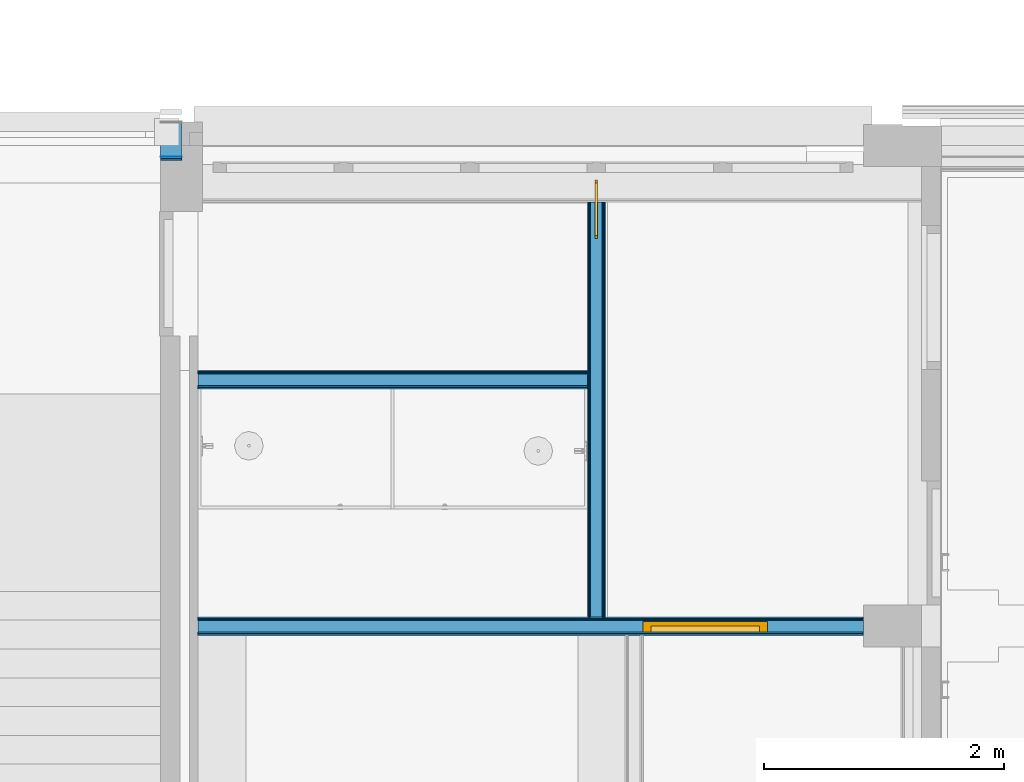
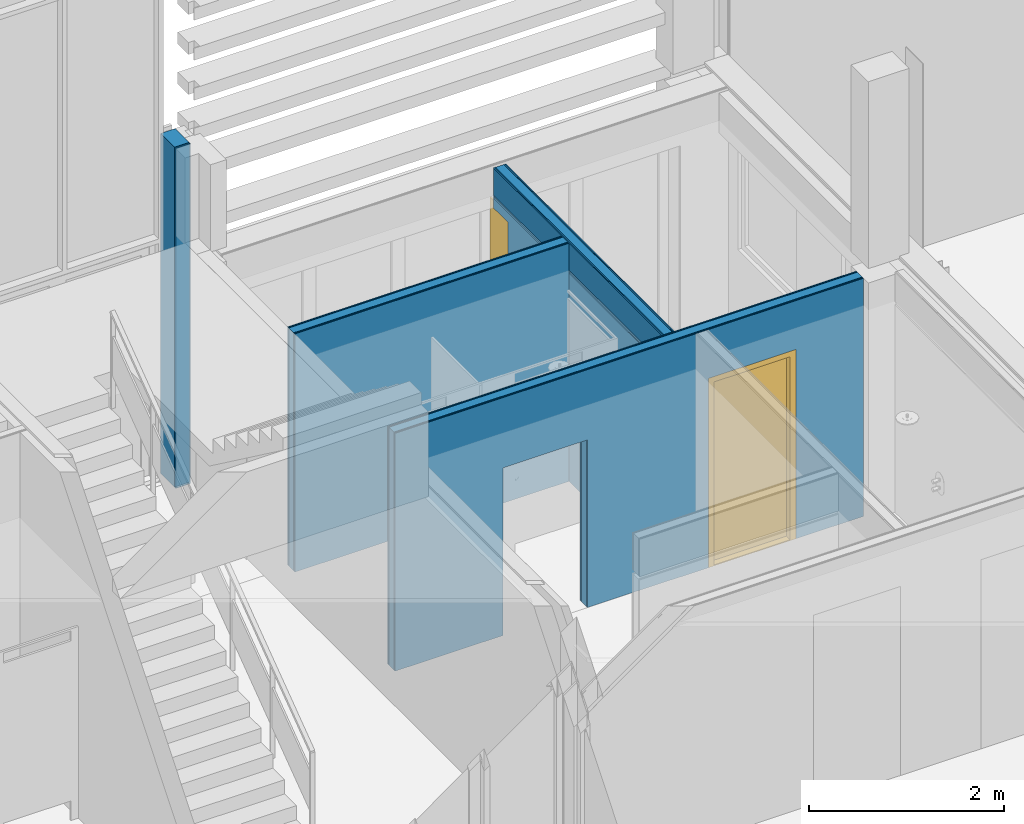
# One storey, part 81 of 109: 19 building element parts, 1 door, 1 window, 3 openings, 4 elements without a shape of their own.
"""IFC2X3 building model written with IfcOpenShell, lengths in millimetres."""

import ifcopenshell
import ifcopenshell.guid

model = None  # the IFC model being written
_history = None  # IfcOwnerHistory: only IFC2X3 demands one
_inside = {}  # id of a spatial element -> (the spatial element, [elements in it])
_under = {}  # id of a project, library or spatial element -> (it, [spatial elements below it])
_declared = {}  # id of a project -> (the project, [libraries it declares])
_typed = {}  # id of a type object -> (the type object, [elements of that type])
_made_of = {}  # id of a material, layer set ... -> (it, [elements and type objects made of it])


def new_model(schema):
    """Start an empty IFC model of exactly this schema.

    Asked for "IFC4X3", IfcOpenShell would pick the latest addendum, in which some entities
    have other attributes; the version numbers below select the first issue.
    IFC2X3 requires an IfcOwnerHistory on every rooted entity: one is made here for all.
    """
    global model, _history
    if schema == "IFC4X3":
        model = ifcopenshell.file(schema_version=(4, 3, 0, 0))
    else:
        model = ifcopenshell.file(schema=schema)
    _inside.clear()
    _under.clear()
    _declared.clear()
    _typed.clear()
    _made_of.clear()
    _history = None
    if model.schema == "IFC2X3":
        org = make("IfcOrganization", Name="unknown")
        user = make(
            "IfcPersonAndOrganization",
            ThePerson=make("IfcPerson", FamilyName="unknown"),
            TheOrganization=org,
        )
        app = make(
            "IfcApplication",
            ApplicationDeveloper=org,
            Version="unknown",
            ApplicationFullName="unknown",
            ApplicationIdentifier="unknown",
        )
        _history = make(
            "IfcOwnerHistory",
            OwningUser=user,
            OwningApplication=app,
            ChangeAction="ADDED",
            CreationDate=0,
        )
    return model


def make(cls, **values):
    """One entity of the class cls with the attributes given. An attribute that is None is left unset."""
    return model.create_entity(
        cls, **{name: value for name, value in values.items() if value is not None}
    )


def entity(cls, *values):
    """Any entity or typed value of the class cls, its attributes in the order of the schema. None: left unset."""
    e = model.create_entity(cls)
    for i, value in enumerate(values):
        if value is not None:
            e[i] = value
    return e


def rooted(cls, **values):
    """An entity with a GlobalId (a new one), such as an element, a storey or a relation."""
    return make(cls, GlobalId=ifcopenshell.guid.new(), OwnerHistory=_history, **values)


def si_unit(unit_type, name, prefix=None):
    """IfcSIUnit, for example si_unit("LENGTHUNIT", "METRE", prefix="MILLI")."""
    return make("IfcSIUnit", UnitType=unit_type, Prefix=prefix, Name=name)


def converted_unit(unit_type, name, factor, base, dimensions=None, offset=None):
    """IfcConversionBasedUnit, such as the inch: factor (a typed value) times the base unit."""
    return make(
        "IfcConversionBasedUnit"
        if offset is None
        else "IfcConversionBasedUnitWithOffset",
        ConversionOffset=offset,
        Dimensions=None
        if dimensions is None
        else entity("IfcDimensionalExponents", *dimensions),
        UnitType=unit_type,
        Name=name,
        ConversionFactor=make(
            "IfcMeasureWithUnit", ValueComponent=factor, UnitComponent=base
        ),
    )


def derived_unit(unit_type, elements):
    """IfcDerivedUnit: a product of units, each with its exponent."""
    return make(
        "IfcDerivedUnit",
        Elements=[
            make("IfcDerivedUnitElement", Unit=unit, Exponent=power)
            for unit, power in elements
        ],
        UnitType=unit_type,
    )


def money_unit(currency):
    """IfcMonetaryUnit."""
    return make("IfcMonetaryUnit", Currency=currency)


def assignment(units):
    """IfcUnitAssignment: the units of a project."""
    return None if units is None else make("IfcUnitAssignment", Units=units)


def point(xyz):
    """IfcCartesianPoint."""
    return None if xyz is None else make("IfcCartesianPoint", Coordinates=xyz)


def direction(xyz):
    """IfcDirection."""
    return None if xyz is None else make("IfcDirection", DirectionRatios=xyz)


def frame(location, z_axis=None, x_axis=None):
    """IfcAxis2Placement3D, a coordinate frame: its origin and axes. An axis left out is left unset."""
    return make(
        "IfcAxis2Placement3D",
        Location=point(location),
        Axis=direction(z_axis),
        RefDirection=direction(x_axis),
    )


def origin_with_axes():
    """The frame at (0, 0, 0) with the z axis (0, 0, 1) and the x axis (1, 0, 0) written out."""
    return frame((0.0, 0.0, 0.0), z_axis=(0.0, 0.0, 1.0), x_axis=(1.0, 0.0, 0.0))


def place(relative_to, where):
    """IfcLocalPlacement: puts the frame where relative to a parent placement (None: the world)."""
    return make(
        "IfcLocalPlacement", PlacementRelTo=relative_to, RelativePlacement=where
    )


def context(
    kind, dimensions, precision=None, world=None, true_north=None, identifier=None
):
    """IfcGeometricRepresentationContext, for example the 3D "Model" context."""
    return make(
        "IfcGeometricRepresentationContext",
        ContextIdentifier=identifier,
        ContextType=kind,
        CoordinateSpaceDimension=dimensions,
        Precision=precision,
        WorldCoordinateSystem=world,
        TrueNorth=true_north,
    )


def subcontext(parent, identifier, kind, view, scale=None):
    """IfcGeometricRepresentationSubContext, for example "Body" below "Model"."""
    return make(
        "IfcGeometricRepresentationSubContext",
        ContextIdentifier=identifier,
        ContextType=kind,
        ParentContext=parent,
        TargetScale=scale,
        TargetView=view,
    )


def project(units=None, contexts=None):
    """IfcProject with its units and contexts."""
    return rooted(
        "IfcProject",
        Name="project",
        RepresentationContexts=contexts,
        UnitsInContext=assignment(units),
    )


def spatial(cls, under=None, at=None, **own):
    """A site, building, storey or space (cls), placed at a placement, below another one or the project."""
    s = rooted(cls, ObjectPlacement=at, **own)
    if under is not None:
        _under.setdefault(under.id(), (under, []))[1].append(s)
    return s


def faces_of(points, faces, orient=None, outer=None):
    """IfcFace entities. A face is a list of loops; a loop is a list of indices into points, from 0.

    orient and outer hold one flag for each loop. By default every Orientation is true, the
    first loop of a face is its IfcFaceOuterBound and the others are IfcFaceBound.
    """
    made = []
    for i, loops in enumerate(faces):
        bounds = []
        for j, loop in enumerate(loops):
            is_outer = j == 0 if outer is None else outer[i][j]
            bounds.append(
                make(
                    "IfcFaceOuterBound" if is_outer else "IfcFaceBound",
                    Bound=make("IfcPolyLoop", Polygon=[points[k] for k in loop]),
                    Orientation=True if orient is None else orient[i][j],
                )
            )
        made.append(make("IfcFace", Bounds=bounds))
    return made


def open_shell(faces, orient=None, outer=None):
    """The faces of one IfcOpenShell. surface_model builds it on its shared points."""
    return ("IfcOpenShell", faces, orient, outer)


def faceted_brep(points, faces, orient=None, outer=None, voids=None):
    """IfcFacetedBrep: a solid bounded by flat faces; with voids (closed shells), ...WithVoids."""
    shared = [point(p) for p in points]
    hull = make("IfcClosedShell", CfsFaces=faces_of(shared, faces, orient, outer))
    if voids is None:
        return make("IfcFacetedBrep", Outer=hull)
    return make(
        "IfcFacetedBrepWithVoids",
        Outer=hull,
        Voids=[
            make(cls, CfsFaces=faces_of(shared, fs, o, b)) for cls, fs, o, b in voids
        ],
    )


def surface_model(cls, points, shells):
    """IfcFaceBasedSurfaceModel or IfcShellBasedSurfaceModel (cls): surfaces that need not close."""
    shared = [point(p) for p in points]
    made = [make(c, CfsFaces=faces_of(shared, fs, o, b)) for c, fs, o, b in shells]
    if cls == "IfcFaceBasedSurfaceModel":
        return make(cls, FbsmFaces=made)
    return make(cls, SbsmBoundary=made)


def shape(context_of_items, identifier, shape_type, items):
    """IfcShapeRepresentation: the items that make up one representation, for example the "Body"."""
    return make(
        "IfcShapeRepresentation",
        ContextOfItems=context_of_items,
        RepresentationIdentifier=identifier,
        RepresentationType=shape_type,
        Items=items,
    )


def material(Name=None, Category=None):
    """IfcMaterial."""
    return make("IfcMaterial", Name=Name, Category=Category)


def made_of(thing, what):
    """Note that an element or type object is made of a material, layer set ...; save() writes the relation."""
    if what is not None:
        _made_of.setdefault(what.id(), (what, []))[1].append(thing)
    return thing


def type_object(cls, material=None, **own):
    """A type object (cls), such as IfcWallType, which elements share."""
    return made_of(rooted(cls, **own), material)


def element(
    cls,
    number,
    at=None,
    inside=None,
    cuts=None,
    type_object=None,
    material=None,
    context=None,
    identifier="Body",
    shape_type=None,
    held_by="IfcProductDefinitionShape",
    body=None,
    shapes=None,
    **own,
):
    """One element of the class cls, such as IfcWall. Its Tag is "e" and its number.

    at: its placement. inside: the storey or other place that contains it. cuts: it is an
    opening in that element (IfcRelVoidsElement). A single representation is given by context,
    identifier, shape_type and body (its items); several are given by shapes. held_by: the class
    of the entity that holds the representations. save() writes the other relations.
    """
    e = rooted(cls, Tag="e%d" % number, ObjectPlacement=at, **own)
    if body is not None:
        shapes = [shape(context, identifier, shape_type, body)]
    if shapes is not None:
        e.Representation = make(held_by, Representations=shapes)
    if inside is not None:
        _inside.setdefault(inside.id(), (inside, []))[1].append(e)
    if cuts is not None:
        rooted(
            "IfcRelVoidsElement", RelatingBuildingElement=cuts, RelatedOpeningElement=e
        )
    if type_object is not None:
        _typed.setdefault(type_object.id(), (type_object, []))[1].append(e)
    return made_of(e, material)


def fill(opening, filler):
    """IfcRelFillsElement: the door or window that sits in an opening."""
    return rooted(
        "IfcRelFillsElement",
        RelatingOpeningElement=opening,
        RelatedBuildingElement=filler,
    )


def aggregate(whole, parts):
    """IfcRelAggregates: a whole, such as a stair, and the parts it consists of."""
    return rooted("IfcRelAggregates", RelatingObject=whole, RelatedObjects=parts)


def save(model, path):
    """Write the relations noted so far, then the file.

    IfcRelAggregates (storeys below a building ...), IfcRelContainedInSpatialStructure (elements
    in a storey), IfcRelDefinesByType, IfcRelAssociatesMaterial and IfcRelDeclares: one each for
    every whole, place, type object, material and project.
    """
    for whole, parts in _under.values():
        aggregate(whole, parts)
    for where, things in _inside.values():
        rooted(
            "IfcRelContainedInSpatialStructure",
            RelatedElements=things,
            RelatingStructure=where,
        )
    for kind, things in _typed.values():
        rooted("IfcRelDefinesByType", RelatedObjects=things, RelatingType=kind)
    for what, things in _made_of.values():
        rooted("IfcRelAssociatesMaterial", RelatedObjects=things, RelatingMaterial=what)
    for by, libraries in _declared.values():
        rooted("IfcRelDeclares", RelatingContext=by, RelatedDefinitions=libraries)
    model.write(path)


model = new_model("IFC2X3")

# Units and contexts
model_context = context("Model", 3, precision=0.01, world=origin_with_axes(), true_north=direction((0.0, 1.0)))
body_context = subcontext(model_context, "Body", "Model", "MODEL_VIEW")
ifc_project = project(units=[si_unit("LENGTHUNIT", "METRE", prefix="MILLI"), si_unit("AREAUNIT", "SQUARE_METRE"), si_unit("VOLUMEUNIT", "CUBIC_METRE"), converted_unit("PLANEANGLEUNIT", "DEGREE", entity("IfcPlaneAngleMeasure", 0.0174532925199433), si_unit("PLANEANGLEUNIT", "RADIAN"), dimensions=[0, 0, 0, 0, 0, 0, 0]), money_unit("EUR"), converted_unit("TIMEUNIT", "Year", entity("IfcTimeMeasure", 31557600.0), si_unit("TIMEUNIT", "SECOND"), dimensions=[0, 0, 1, 0, 0, 0, 0]), si_unit("MASSUNIT", "GRAM", prefix="KILO"), si_unit("THERMODYNAMICTEMPERATUREUNIT", "DEGREE_CELSIUS"), si_unit("LUMINOUSINTENSITYUNIT", "LUMEN"), si_unit("ENERGYUNIT", "JOULE", prefix="MEGA"), derived_unit("THERMALCONDUCTANCEUNIT", [(si_unit("POWERUNIT", "WATT"), 1), (si_unit("LENGTHUNIT", "METRE"), -1), (si_unit("THERMODYNAMICTEMPERATUREUNIT", "KELVIN"), -1)]), derived_unit("SPECIFICHEATCAPACITYUNIT", [(si_unit("ENERGYUNIT", "JOULE"), 1), (si_unit("MASSUNIT", "GRAM", prefix="KILO"), -1), (si_unit("THERMODYNAMICTEMPERATUREUNIT", "KELVIN"), -1)]), derived_unit("MASSDENSITYUNIT", [(si_unit("MASSUNIT", "GRAM", prefix="KILO"), 1), (si_unit("VOLUMEUNIT", "CUBIC_METRE"), -1)])], contexts=[model_context])

# Site, building, storey
site_placement = place(None, origin_with_axes())
site = spatial("IfcSite", under=ifc_project, at=site_placement, Name="<site naam>", CompositionType="ELEMENT")
building_placement = place(site_placement, origin_with_axes())
building = spatial("IfcBuilding", under=site, at=building_placement, Name="<Naam gebouw>", CompositionType="ELEMENT")
storey_placement = place(building_placement, origin_with_axes())
storey = spatial("IfcBuildingStorey", under=building, at=storey_placement, Name="00 Begane grond", CompositionType="ELEMENT", Elevation=0.0)

# Window
window_style = type_object("IfcWindowStyle", Name="R1 27", ConstructionType="NOTDEFINED", OperationType="DOUBLE_PANEL_HORIZONTAL", ParameterTakesPrecedence=False, Sizeable=False)
wall_1_placement = place(storey_placement, frame((55451.69800429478, 19840.00019144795, 0.0), z_axis=(0.0, 0.0, 1.0), x_axis=(0.0, -1.0, 0.0)))
opening_1_placement = place(wall_1_placement, frame((370.4607829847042, 0.0, 0.0), z_axis=(0.0, 0.0, 1.0), x_axis=(1.0, 0.0, 0.0)))
window_placement = place(opening_1_placement, frame((-242.0392170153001, 0.0, 0.0), z_axis=(0.0, 0.0, 1.0), x_axis=(1.0, 0.0, 0.0)))
window = element("IfcWindow", 1, at=window_placement, inside=storey, type_object=window_style, Name="22_BI-F-31_305", ObjectType="WINDOW", OverallHeight=2479.5, OverallWidth=484.078, context=body_context, shape_type="SurfaceModel", body=[
    faceted_brep([(460.0784340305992, -10.00000000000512, 788.0), (460.0784340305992, -10.00000000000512, 812.0), (460.0784340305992, 9.99999999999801, 812.0), (460.0784340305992, 9.99999999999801, 788.0), (460.0784340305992, -10.00000000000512, 23.99999999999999), (484.0784340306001, -10.00000000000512, 23.99999999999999), (484.0784340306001, -10.00000000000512, 2455.5), (460.0784340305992, -10.00000000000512, 2455.5), (460.0784340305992, 9.99999999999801, 2455.5), (484.0784340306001, 9.99999999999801, 2455.5), (484.0784340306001, 9.99999999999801, 24.0), (460.0784340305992, 9.99999999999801, 24.0)], [[[0, 1, 2, 3]], [[0, 4, 5, 6, 7, 1]], [[1, 7, 8, 2]], [[3, 2, 8, 9, 10, 11]], [[4, 0, 3, 11]], [[5, 4, 11, 10]], [[6, 5, 10, 9]], [[7, 6, 9, 8]]]),
    faceted_brep([(24.00000000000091, -10.00000000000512, 23.99999999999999), (0.0, -10.00000000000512, 23.99999999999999), (0.0, 9.99999999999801, 24.0), (24.00000000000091, 9.99999999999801, 24.0), (24.00000000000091, -10.00000000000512, 788.0), (24.00000000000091, -10.00000000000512, 812.0), (24.00000000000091, -10.00000000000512, 2455.5), (0.0, -10.00000000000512, 2455.5), (0.0, 9.99999999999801, 2455.5), (24.00000000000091, 9.99999999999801, 2455.5), (24.00000000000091, 9.99999999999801, 812.0), (24.00000000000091, 9.99999999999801, 788.0)], [[[0, 1, 2, 3]], [[0, 4, 5, 6, 7, 1]], [[1, 7, 8, 2]], [[3, 2, 8, 9, 10, 11]], [[4, 0, 3, 11]], [[5, 4, 11, 10]], [[6, 5, 10, 9]], [[7, 6, 9, 8]]]),
    faceted_brep([(460.0784340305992, -10.00000000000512, 788.0), (24.00000000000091, -10.00000000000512, 788.0), (24.00000000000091, 9.99999999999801, 788.0), (460.0784340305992, 9.99999999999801, 788.0), (460.0784340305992, -10.00000000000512, 812.0), (24.00000000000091, -10.00000000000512, 812.0), (24.00000000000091, 9.99999999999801, 812.0), (460.0784340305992, 9.99999999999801, 812.0)], [[[0, 1, 2, 3]], [[0, 4, 5, 1]], [[1, 5, 6, 2]], [[3, 2, 6, 7]], [[4, 0, 3, 7]], [[5, 4, 7, 6]]]),
    faceted_brep([(460.0784340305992, -10.00000000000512, 23.99999999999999), (484.0784340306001, -10.00000000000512, 23.99999999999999), (484.0784340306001, 9.99999999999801, 24.0), (460.0784340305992, 9.99999999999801, 24.0), (24.00000000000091, -10.00000000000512, 23.99999999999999), (0.0, -10.00000000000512, 23.99999999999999), (0.0, -10.00000000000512, 0.0), (484.0784340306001, -10.00000000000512, 0.0), (484.0784340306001, 9.99999999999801, 0.0), (0.0, 9.99999999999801, 0.0), (0.0, 9.99999999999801, 24.0), (24.00000000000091, 9.99999999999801, 24.0)], [[[0, 1, 2, 3]], [[0, 4, 5, 6, 7, 1]], [[1, 7, 8, 2]], [[3, 2, 8, 9, 10, 11]], [[4, 0, 3, 11]], [[5, 4, 11, 10]], [[6, 5, 10, 9]], [[7, 6, 9, 8]]]),
    faceted_brep([(24.00000000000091, -10.00000000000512, 2455.5), (0.0, -10.00000000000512, 2455.5), (0.0, 9.99999999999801, 2455.5), (24.00000000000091, 9.99999999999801, 2455.5), (460.0784340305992, -10.00000000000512, 2455.5), (484.0784340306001, -10.00000000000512, 2455.5), (484.0784340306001, -10.00000000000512, 2479.5), (0.0, -10.00000000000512, 2479.5), (0.0, 9.99999999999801, 2479.5), (484.0784340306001, 9.99999999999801, 2479.5), (484.0784340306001, 9.99999999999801, 2455.5), (460.0784340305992, 9.99999999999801, 2455.5)], [[[0, 1, 2, 3]], [[0, 4, 5, 6, 7, 1]], [[1, 7, 8, 2]], [[3, 2, 8, 9, 10, 11]], [[4, 0, 3, 11]], [[5, 4, 11, 10]], [[6, 5, 10, 9]], [[7, 6, 9, 8]]]),
    surface_model("IfcShellBasedSurfaceModel", [(460.0784340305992, -10.00000000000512, 812.0), (460.0784340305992, -10.00000000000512, 2455.5), (24.00000000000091, -10.00000000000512, 2455.5), (24.00000000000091, -10.00000000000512, 812.0)], [open_shell([[[0, 1, 2, 3]]])]),
    surface_model("IfcShellBasedSurfaceModel", [(460.0784340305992, 9.99999999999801, 812.0), (24.00000000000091, 9.99999999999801, 812.0), (24.00000000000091, 9.99999999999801, 2455.5), (460.0784340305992, 9.99999999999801, 2455.5)], [open_shell([[[0, 1, 2, 3]]])]),
    surface_model("IfcShellBasedSurfaceModel", [(460.0784340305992, -10.00000000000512, 23.99999999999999), (460.0784340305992, -10.00000000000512, 788.0), (24.00000000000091, -10.00000000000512, 788.0), (24.00000000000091, -10.00000000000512, 23.99999999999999)], [open_shell([[[0, 1, 2, 3]]])]),
    surface_model("IfcShellBasedSurfaceModel", [(460.0784340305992, 9.99999999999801, 23.99999999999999), (24.00000000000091, 9.99999999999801, 23.99999999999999), (24.00000000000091, 9.99999999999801, 788.0), (460.0784340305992, 9.99999999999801, 788.0)], [open_shell([[[0, 1, 2, 3]]])]),
])

# Door
door_style = type_object("IfcDoorStyle", Name="D1 27", ConstructionType="NOTDEFINED", OperationType="SINGLE_SWING_LEFT", ParameterTakesPrecedence=False, Sizeable=False)
wall_2_placement = place(storey_placement, frame((52135.00000000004, 16000.00000000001, 0.0), z_axis=(0.0, 0.0, 1.0), x_axis=(1.0, 0.0, 0.0)))
opening_2_placement = place(wall_2_placement, frame((4223.000003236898, 0.0, 0.0), z_axis=(0.0, 0.0, 1.0), x_axis=(1.0, 0.0, 0.0)))
door_placement = place(opening_2_placement, frame((-450.0000000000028, 0.0, 0.0), z_axis=(0.0, 0.0, 1.0), x_axis=(1.0, 0.0, 0.0)))
door = element("IfcDoor", 2, at=door_placement, inside=storey, type_object=door_style, Name="22_BI-A-01_305", ObjectType="DOOR", OverallHeight=2367.0, OverallWidth=1034.0, context=body_context, shape_type="Brep", body=[
    faceted_brep([(0.0, -74.99999999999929, 0.0), (0.0, -74.99999999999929, 11.99999999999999), (0.0, -0.9999999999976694, 11.99999999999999), (0.0, -0.9999999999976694, 0.0), (900.0000000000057, -74.99999999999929, 0.0), (900.0000000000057, -74.99999999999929, 11.99999999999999), (900.0000000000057, -0.9999999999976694, 11.99999999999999), (917.0000000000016, -0.9999999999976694, 11.99999999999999), (-16.99999999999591, -0.9999999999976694, 11.99999999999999), (-16.99999999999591, -0.9999999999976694, 0.0), (917.0000000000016, -0.9999999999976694, 0.0), (900.0000000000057, -0.9999999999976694, 0.0)], [[[0, 1, 2, 3]], [[4, 5, 1, 0]], [[1, 5, 6, 7, 8, 2]], [[3, 2, 8, 9]], [[0, 3, 9, 10, 11, 4]], [[11, 6, 5, 4]], [[10, 7, 6, 11]], [[9, 8, 7, 10]]]),
    faceted_brep([(900.0000000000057, -0.9999999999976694, 0.0), (900.0000000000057, -74.99999999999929, 0.0), (900.0000000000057, -74.99999999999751, 2300.0), (900.0000000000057, -0.9999999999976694, 2300.0), (917.0000000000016, -0.9999999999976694, 0.0), (917.0000000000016, 39.00000000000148, 0.0), (967.0000000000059, 39.00000000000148, 0.0), (967.0000000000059, -74.99999999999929, 0.0), (967.0000000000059, -74.99999999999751, 2300.0), (917.0000000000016, -0.9999999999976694, 2300.0), (967.0000000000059, 39.00000000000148, 2300.0), (917.0000000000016, 39.00000000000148, 2300.0)], [[[0, 1, 2, 3]], [[4, 5, 6, 7, 1, 0]], [[1, 7, 8, 2]], [[9, 3, 2, 8, 10, 11]], [[9, 4, 0, 3]], [[11, 5, 4, 9]], [[11, 10, 6, 5]], [[6, 10, 8, 7]]]),
    faceted_brep([(-16.99999999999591, -0.9999999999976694, 2300.0), (-16.99999999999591, 39.00000000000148, 2300.0), (-67.00000000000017, 39.00000000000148, 2300.0), (-67.00000000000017, -74.99999999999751, 2300.0), (0.0, -74.99999999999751, 2300.0), (0.0, -0.9999999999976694, 2300.0), (-16.99999999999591, -0.9999999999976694, 0.0), (-16.99999999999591, 39.00000000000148, 0.0), (-67.00000000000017, 39.00000000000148, 0.0), (-67.00000000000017, -74.99999999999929, 0.0), (0.0, -74.99999999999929, 0.0), (0.0, -0.9999999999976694, 0.0)], [[[0, 1, 2, 3, 4, 5]], [[0, 6, 7, 1]], [[7, 8, 2, 1]], [[2, 8, 9, 3]], [[3, 9, 10, 4]], [[5, 4, 10, 11]], [[5, 11, 6, 0]], [[6, 11, 10, 9, 8, 7]]]),
    faceted_brep([(917.0000000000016, 39.00000000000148, 2317.0), (-16.99999999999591, 39.00000000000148, 2317.0), (-16.99999999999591, 39.00000000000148, 2300.0), (-67.00000000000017, 39.00000000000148, 2300.0), (-67.00000000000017, 39.00000000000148, 2367.0), (967.0000000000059, 39.00000000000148, 2367.0), (967.0000000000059, 39.00000000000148, 2300.0), (917.0000000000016, 39.00000000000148, 2300.0), (917.0000000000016, -0.9999999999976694, 2317.0), (-16.99999999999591, -0.9999999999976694, 2317.0), (-16.99999999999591, -0.9999999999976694, 2300.0), (0.0, -0.9999999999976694, 2300.0), (0.0, -74.99999999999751, 2300.0), (-67.00000000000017, -74.99999999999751, 2300.0), (-67.00000000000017, -74.99999999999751, 2367.0), (967.0000000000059, -74.99999999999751, 2367.0), (967.0000000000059, -74.99999999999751, 2300.0), (917.0000000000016, -0.9999999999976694, 2300.0), (900.0000000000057, -74.99999999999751, 2300.0), (900.0000000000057, -0.9999999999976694, 2300.0)], [[[0, 1, 2, 3, 4, 5, 6, 7]], [[0, 8, 9, 1]], [[1, 9, 10, 2]], [[10, 11, 12, 13, 3, 2]], [[4, 3, 13, 14]], [[5, 4, 14, 15]], [[6, 5, 15, 16]], [[17, 7, 6, 16, 18, 19]], [[7, 17, 8, 0]], [[10, 9, 8, 17, 19, 11]], [[19, 18, 12, 11]], [[12, 18, 16, 15, 14, 13]]]),
    faceted_brep([(-16.99999999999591, 39.00000000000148, 0.0), (917.0000000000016, 39.00000000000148, 0.0), (917.0000000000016, -0.9999999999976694, 0.0), (-16.99999999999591, -0.9999999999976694, 0.0), (-16.99999999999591, 39.00000000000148, 2317.0), (917.0000000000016, 39.00000000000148, 2317.0), (917.0000000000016, -0.9999999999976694, 2317.0), (-16.99999999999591, -0.9999999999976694, 2317.0)], [[[0, 1, 2, 3]], [[0, 4, 5, 1]], [[1, 5, 6, 2]], [[3, 2, 6, 7]], [[4, 0, 3, 7]], [[5, 4, 7, 6]]]),
])

# Wall, opening
wall_type_1 = type_object("IfcWallType", Name="MS-01 GF 150 ECO DGS/2.100.2.A 150", PredefinedType="NOTDEFINED")
wall_1 = element("IfcWall", 3, at=wall_1_placement, inside=storey, type_object=wall_type_1, Name="22_Binnenwand_MS-01")
opening_1 = element("IfcOpeningElement", 4, at=opening_1_placement, cuts=wall_1, Name="22_BI-F-31_305", context=body_context, shape_type="Brep", body=[
    faceted_brep([(-242.0392170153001, 9.99999999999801, 0.0), (-242.0392170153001, 9.99999999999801, 2479.5), (-242.0392170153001, 76.00000000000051, 2479.5), (-242.0392170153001, 76.00000000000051, 0.0), (-242.0392170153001, -76.00000000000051, 0.0), (-242.0392170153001, -76.00000000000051, 2479.5), (242.0392170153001, 9.99999999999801, 2479.5), (242.0392170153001, 76.00000000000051, 2479.5), (242.0392170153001, -76.00000000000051, 2479.5), (242.0392170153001, 76.00000000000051, 0.0), (242.0392170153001, 9.99999999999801, 0.0), (242.0392170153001, -76.00000000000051, 0.0)], [[[0, 1, 2, 3]], [[1, 0, 4, 5]], [[6, 7, 2, 1, 5, 8]], [[7, 9, 3, 2]], [[0, 3, 9, 10, 11, 4]], [[5, 4, 11, 8]], [[6, 10, 9, 7]], [[10, 6, 8, 11]]]),
])

fill(opening_1, window)

# Building element part
ifc_material_1 = material(Name="gipsplaat")
building_element_part_1_placement = place(wall_1_placement, origin_with_axes())
building_element_part_1 = element("IfcBuildingElementPart", 5, at=building_element_part_1_placement, material=ifc_material_1, Name="gipsplaat", context=body_context, shape_type="Brep", body=[
    faceted_brep([(312.5, 62.5, 2978.0), (312.5, 75.00000000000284, 2978.0), (312.5, 75.00000000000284, 0.0), (312.5, 62.5, 0.0), (3765.000191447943, 75.00000000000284, 2978.0), (3765.000191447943, 62.5, 2978.0), (3765.000191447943, 75.00000000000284, 0.0), (3765.000191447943, 62.5, 0.0)], [[[0, 1, 2, 3]], [[4, 1, 0, 5]], [[1, 4, 6, 2]], [[2, 6, 7, 3]], [[5, 0, 3, 7]], [[4, 5, 7, 6]]]),
])

building_element_part_2_placement = place(wall_1_placement, origin_with_axes())
building_element_part_2 = element("IfcBuildingElementPart", 6, at=building_element_part_2_placement, material=ifc_material_1, Name="gipsplaat", context=body_context, shape_type="Brep", body=[
    faceted_brep([(312.5, 49.99999911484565, 2978.0), (312.5, 62.5, 2978.0), (312.5, 62.5, 0.0), (312.5, 49.99999999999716, 0.0), (3765.000191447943, 62.5, 2978.0), (3765.000191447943, 49.99999911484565, 2978.0), (3765.000191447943, 62.5, 0.0), (3765.000191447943, 49.99999999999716, 0.0)], [[[0, 1, 2, 3]], [[4, 1, 0, 5]], [[1, 4, 6, 2]], [[2, 6, 7, 3]], [[5, 0, 3, 7]], [[4, 5, 7, 6]]]),
])

ifc_material_2 = material(Name="isolatie_steenwol LSW")
building_element_part_3_placement = place(wall_1_placement, origin_with_axes())
building_element_part_3 = element("IfcBuildingElementPart", 7, at=building_element_part_3_placement, material=ifc_material_2, Name="isolatie_steenwol LSW", context=body_context, shape_type="Brep", body=[
    faceted_brep([(312.5, -49.99999911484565, 2978.0), (312.5, 49.99999911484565, 2978.0), (312.5, 49.99999999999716, 0.0), (312.5, -49.99999999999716, 0.0), (3765.000191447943, 49.99999911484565, 2978.0), (3765.000191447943, -49.99999911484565, 2978.0), (3765.000191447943, 49.99999999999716, 0.0), (3765.000191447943, -49.99999999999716, 0.0)], [[[0, 1, 2, 3]], [[4, 1, 0, 5]], [[1, 4, 6, 2]], [[2, 6, 7, 3]], [[5, 0, 3, 7]], [[4, 5, 7, 6]]]),
])

building_element_part_4_placement = place(wall_1_placement, origin_with_axes())
building_element_part_4 = element("IfcBuildingElementPart", 8, at=building_element_part_4_placement, material=ifc_material_1, Name="gipsplaat", context=body_context, shape_type="Brep", body=[
    faceted_brep([(312.5, -75.00000000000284, 2978.0), (312.5, -62.5, 2978.0), (312.5, -62.5, 2.999999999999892), (312.5, -75.00000000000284, 3.000000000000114), (3765.000191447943, -62.5, 2978.0), (3765.000191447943, -75.00000000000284, 2978.0), (3765.000191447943, -62.5, 2640.0), (1865.000188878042, -62.5, 2640.0), (1865.000188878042, -62.5, 2600.0), (3765.000191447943, -62.5, 2600.0), (3765.000191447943, -62.5, 3.000000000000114), (1865.00019144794, -62.5, 2.999999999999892), (1865.00019144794, -62.5, 0.0), (370.0001803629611, -62.5, 0.0), (370.0001803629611, -62.5, 2.999999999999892), (318.0001914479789, -62.5, 2640.0), (318.0001914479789, -62.5, 2600.0), (1715.000191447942, -62.5, 2600.0), (1715.000191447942, -62.5, 2640.0), (370.0001803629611, -75.00000000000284, 2.999999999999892), (370.0001803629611, -75.00000000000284, 0.0), (1865.00019144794, -75.00000000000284, 0.0), (1865.00019144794, -75.00000000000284, 2.999999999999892), (3765.000191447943, -75.00000000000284, 2.999999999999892), (3765.000191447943, -75.00000000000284, 2600.0), (1865.000188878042, -75.00000000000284, 2600.0), (1865.000188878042, -75.00000000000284, 2640.0), (3765.000191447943, -75.00000000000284, 2640.0), (318.0001914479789, -75.00000000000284, 2640.0), (1715.000191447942, -75.00000000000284, 2640.0), (1715.000191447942, -75.00000000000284, 2600.0), (318.0001914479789, -75.00000000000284, 2600.0)], [[[0, 1, 2, 3]], [[4, 1, 0, 5]], [[1, 4, 6, 7, 8, 9, 10, 11, 12, 13, 14, 2], [15, 16, 17, 18]], [[14, 19, 3, 2]], [[5, 0, 3, 19, 20, 21, 22, 23, 24, 25, 26, 27], [28, 29, 30, 31]], [[4, 5, 27, 6]], [[27, 26, 7, 6]], [[26, 25, 8, 7]], [[25, 24, 9, 8]], [[23, 10, 9, 24]], [[23, 22, 11, 10]], [[22, 21, 12, 11]], [[12, 21, 20, 13]], [[20, 19, 14, 13]], [[28, 31, 16, 15]], [[31, 30, 17, 16]], [[30, 29, 18, 17]], [[29, 28, 15, 18]]]),
])

building_element_part_5_placement = place(wall_1_placement, origin_with_axes())
building_element_part_5 = element("IfcBuildingElementPart", 9, at=building_element_part_5_placement, material=ifc_material_1, Name="gipsplaat", context=body_context, shape_type="Brep", body=[
    faceted_brep([(312.5, -62.5, 2978.0), (312.5, -49.99999911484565, 2978.0), (312.5, -49.99999999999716, 0.0), (312.5, -58.3980042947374, 0.0), (312.5, -58.3980042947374, 2.999999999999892), (312.5, -62.5, 3.000000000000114), (3765.000191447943, -49.99999911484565, 2978.0), (3765.000191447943, -62.5, 2978.0), (3765.000191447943, -49.99999999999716, 0.0), (1865.00019144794, -62.5, 0.0), (370.0001803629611, -62.5, 0.0), (370.0001803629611, -58.3980042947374, 0.0), (3765.000191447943, -58.3980042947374, 0.0), (1865.00019144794, -58.3980042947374, 0.0), (370.0001803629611, -58.3980042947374, 2.999999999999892), (370.0001803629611, -62.5, 2.999999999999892), (1865.00019144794, -62.5, 2.999999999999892), (3765.000191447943, -62.5, 2.999999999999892), (3765.000191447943, -58.3980042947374, 2.999999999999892), (1865.00019144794, -58.3980042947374, 2.999999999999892)], [[[0, 1, 2, 3, 4, 5]], [[6, 1, 0, 7]], [[1, 6, 8, 2]], [[9, 10, 11, 3, 2, 8, 12, 13]], [[11, 14, 4, 3]], [[14, 15, 5, 4]], [[7, 0, 5, 15, 10, 9, 16, 17]], [[6, 7, 17, 18, 12, 8]], [[15, 14, 11, 10]], [[18, 19, 13, 12]], [[19, 16, 9, 13]], [[16, 19, 18, 17]]]),
])

aggregate(wall_1, [building_element_part_1, building_element_part_2, building_element_part_3, building_element_part_4, building_element_part_5])

# Wall, opening
wall_2 = element("IfcWall", 10, at=wall_2_placement, inside=storey, type_object=wall_type_1, Name="22_Binnenwand_MS-01")
opening_2 = element("IfcOpeningElement", 11, at=opening_2_placement, cuts=wall_2, Name="22_BI-A-01_305", context=body_context, shape_type="Brep", body=[
    faceted_brep([(517.000000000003, 76.00000000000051, 2367.0), (517.000000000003, 76.00000000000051, 0.0), (-517.000000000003, 76.00000000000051, 0.0), (-517.000000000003, 76.00000000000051, 2367.0), (517.000000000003, -75.99999999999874, 2367.0), (517.000000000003, -75.99999999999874, 0.0), (-517.000000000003, -75.99999999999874, 0.0), (-517.000000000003, -75.99999999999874, 2367.0)], [[[0, 1, 2, 3]], [[4, 5, 1, 0]], [[5, 6, 2, 1]], [[6, 7, 3, 2]], [[7, 4, 0, 3]], [[6, 5, 4, 7]]]),
])

fill(opening_2, door)

# Opening
opening_3_placement = place(wall_2_placement, frame((1776.987414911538, 0.0, 0.0), z_axis=(0.0, 0.0, 1.0), x_axis=(1.0, 0.0, 0.0)))
element("IfcOpeningElement", 12, at=opening_3_placement, cuts=wall_2, Name="22__305", context=body_context, shape_type="Brep", body=[
    faceted_brep([(500.0, 76.00000000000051, 2100.0), (500.0, 76.00000000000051, 0.0), (-500.0, 76.00000000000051, 0.0), (-500.0, 76.00000000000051, 2100.0), (500.0, -75.99999999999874, 2100.0), (500.0, -75.99999999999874, 0.0), (-500.0, -75.99999999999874, 0.0), (-500.0, -75.99999999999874, 2100.0)], [[[0, 1, 2, 3]], [[4, 5, 1, 0]], [[5, 6, 2, 1]], [[6, 7, 3, 2]], [[7, 4, 0, 3]], [[6, 5, 4, 7]]]),
])

# Building element part
building_element_part_6_placement = place(wall_2_placement, origin_with_axes())
building_element_part_6 = element("IfcBuildingElementPart", 13, at=building_element_part_6_placement, material=ifc_material_1, Name="gipsplaat", context=body_context, shape_type="Brep", body=[
    faceted_brep([(0.0, 74.99999999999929, 3.000000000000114), (0.0, 74.99999999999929, 2978.0), (5539.999999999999, 74.99999999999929, 2978.0), (5539.999999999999, 74.99999999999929, 0.0), (3258.299999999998, 74.99999999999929, 0.0), (3258.299999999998, 74.99999999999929, 3.000000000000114), (0.0, 62.5, 3.000000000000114), (0.0, 62.5, 2978.0), (5539.999999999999, 62.5, 2978.0), (5539.999999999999, 62.5, 0.0), (3258.299999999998, 62.5, 0.0), (3258.299999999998, 62.5, 3.000000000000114)], [[[0, 1, 2, 3, 4, 5]], [[6, 7, 1, 0]], [[7, 8, 2, 1]], [[3, 2, 8, 9]], [[3, 9, 10, 4]], [[10, 11, 5, 4]], [[6, 0, 5, 11]], [[9, 8, 7, 6, 11, 10]]]),
])

building_element_part_7_placement = place(wall_2_placement, origin_with_axes())
building_element_part_7 = element("IfcBuildingElementPart", 14, at=building_element_part_7_placement, material=ifc_material_1, Name="gipsplaat", context=body_context, shape_type="Brep", body=[
    faceted_brep([(0.0, 62.5, 3.000000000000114), (0.0, 62.5, 2978.0), (5539.999999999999, 62.5, 2978.0), (5539.999999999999, 62.5, 0.0), (3258.299999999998, 62.5, 0.0), (3258.299999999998, 62.5, 3.000000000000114), (0.0, 50.00000000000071, 3.000000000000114), (0.0, 50.00000000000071, 2978.0), (5539.999999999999, 50.00000000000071, 2978.0), (5539.999999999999, 50.00000000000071, 0.0), (3258.299999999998, 50.00000000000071, 0.0), (3258.299999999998, 50.00000000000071, 3.000000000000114)], [[[0, 1, 2, 3, 4, 5]], [[6, 7, 1, 0]], [[7, 8, 2, 1]], [[3, 2, 8, 9]], [[3, 9, 10, 4]], [[10, 11, 5, 4]], [[6, 0, 5, 11]], [[9, 8, 7, 6, 11, 10]]]),
])

building_element_part_8_placement = place(wall_2_placement, origin_with_axes())
building_element_part_8 = element("IfcBuildingElementPart", 15, at=building_element_part_8_placement, material=ifc_material_2, Name="isolatie_steenwol LSW", context=body_context, shape_type="Brep", body=[
    faceted_brep([(0.0, 50.00000000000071, 3.000000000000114), (0.0, 50.00000000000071, 2978.0), (5539.999999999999, 50.00000000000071, 2978.0), (5539.999999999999, 50.00000000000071, 0.0), (3258.299999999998, 50.00000000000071, 0.0), (3258.299999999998, 50.00000000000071, 3.000000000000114), (0.0, -50.00000000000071, 3.000000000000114), (0.0, -49.99999999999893, 2978.0), (5539.999999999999, -49.99999999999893, 2978.0), (5539.999999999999, -49.99999999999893, 0.0), (3258.299999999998, -50.00000000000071, 0.0), (3258.299999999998, -49.99999999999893, 3.000000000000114)], [[[0, 1, 2, 3, 4, 5]], [[6, 7, 1, 0]], [[7, 8, 2, 1]], [[3, 2, 8, 9]], [[3, 9, 10, 4]], [[10, 11, 5, 4]], [[6, 0, 5, 11]], [[9, 8, 7, 6, 11, 10]]]),
])

building_element_part_9_placement = place(wall_2_placement, origin_with_axes())
building_element_part_9 = element("IfcBuildingElementPart", 16, at=building_element_part_9_placement, material=ifc_material_1, Name="gipsplaat", context=body_context, shape_type="Brep", body=[
    faceted_brep([(0.0, -50.00000000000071, 3.000000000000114), (0.0, -49.99999999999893, 2978.0), (5539.999999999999, -49.99999999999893, 2978.0), (5539.999999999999, -49.99999999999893, 0.0), (3258.299999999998, -50.00000000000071, 0.0), (3258.299999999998, -49.99999999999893, 3.000000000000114), (0.0, -62.5, 3.000000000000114), (0.0, -62.5, 2978.0), (5539.999999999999, -62.5, 2978.0), (5539.999999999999, -62.5, 0.0), (3258.299999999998, -62.5, 0.0), (3258.299999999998, -62.5, 3.000000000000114)], [[[0, 1, 2, 3, 4, 5]], [[6, 7, 1, 0]], [[7, 8, 2, 1]], [[3, 2, 8, 9]], [[3, 9, 10, 4]], [[10, 11, 5, 4]], [[6, 0, 5, 11]], [[9, 8, 7, 6, 11, 10]]]),
])

building_element_part_10_placement = place(wall_2_placement, origin_with_axes())
building_element_part_10 = element("IfcBuildingElementPart", 17, at=building_element_part_10_placement, material=ifc_material_1, Name="gipsplaat", context=body_context, shape_type="Brep", body=[
    faceted_brep([(0.0, -62.5, 3.000000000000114), (0.0, -62.5, 2978.0), (5539.999999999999, -62.5, 2978.0), (5539.999999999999, -62.5, 0.0), (3258.299999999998, -62.5, 0.0), (3258.299999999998, -62.5, 3.000000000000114), (0.0, -74.99999999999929, 3.000000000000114), (0.0, -74.99999999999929, 2978.0), (5539.999999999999, -74.99999999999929, 2978.0), (5539.999999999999, -74.99999999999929, 0.0), (3258.299999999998, -74.99999999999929, 0.0), (3258.299999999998, -74.99999999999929, 3.000000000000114)], [[[0, 1, 2, 3, 4, 5]], [[6, 7, 1, 0]], [[7, 8, 2, 1]], [[3, 2, 8, 9]], [[3, 9, 10, 4]], [[10, 11, 5, 4]], [[6, 0, 5, 11]], [[9, 8, 7, 6, 11, 10]]]),
])

aggregate(wall_2, [building_element_part_6, building_element_part_7, building_element_part_8, building_element_part_9, building_element_part_10])

# Wall, building element parts
wall_3_placement = place(storey_placement, frame((52135.00000000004, 17975.00000000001, 0.0), z_axis=(0.0, 0.0, 1.0), x_axis=(1.0, 0.0, 0.0)))
wall_3 = element("IfcWall", 18, at=wall_3_placement, inside=storey, type_object=wall_type_1, Name="22_Binnenwand_MS-01")
building_element_part_11_placement = place(wall_3_placement, origin_with_axes())
building_element_part_11 = element("IfcBuildingElementPart", 19, at=building_element_part_11_placement, material=ifc_material_1, Name="gipsplaat", context=body_context, shape_type="Brep", body=[
    faceted_brep([(-3.697082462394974e-05, 149.9999999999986, 2978.0), (3241.698004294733, 150.0000000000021, 2978.0), (3241.698004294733, 149.9999999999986, 0.0), (0.0, 149.9999999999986, 0.0), (3241.698004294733, 137.4999999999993, 2978.0), (-3.697082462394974e-05, 137.4999999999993, 2978.0), (3241.698004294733, 137.4999999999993, 0.0), (0.0, 137.4999999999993, 0.0)], [[[0, 1, 2, 3]], [[4, 1, 0, 5]], [[1, 4, 6, 2]], [[3, 2, 6, 7]], [[5, 0, 3, 7]], [[4, 5, 7, 6]]]),
])
building_element_part_12_placement = place(wall_3_placement, origin_with_axes())
building_element_part_12 = element("IfcBuildingElementPart", 20, at=building_element_part_12_placement, material=ifc_material_1, Name="gipsplaat", context=body_context, shape_type="Brep", body=[
    faceted_brep([(-3.697082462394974e-05, 137.4999999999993, 2978.0), (3241.698004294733, 137.4999999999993, 2978.0), (3241.698004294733, 137.4999999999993, 0.0), (0.0, 137.4999999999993, 0.0), (3241.698004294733, 125.0, 2978.0), (-3.697082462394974e-05, 125.0, 2978.0), (3241.698004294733, 125.0, 0.0), (0.0, 125.0, 0.0)], [[[0, 1, 2, 3]], [[4, 1, 0, 5]], [[1, 4, 6, 2]], [[3, 2, 6, 7]], [[5, 0, 3, 7]], [[4, 5, 7, 6]]]),
])
building_element_part_13_placement = place(wall_3_placement, origin_with_axes())
building_element_part_13 = element("IfcBuildingElementPart", 21, at=building_element_part_13_placement, material=ifc_material_2, Name="isolatie_steenwol LSW", context=body_context, shape_type="Brep", body=[
    faceted_brep([(-3.697082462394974e-05, 125.0, 2978.0), (3241.698004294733, 125.0, 2978.0), (3241.698004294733, 125.0, 0.0), (0.0, 125.0, 0.0), (3241.698004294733, 25.00000000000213, 2978.0), (-3.697082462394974e-05, 24.99999999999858, 2978.0), (3241.698004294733, 24.99999999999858, 0.0), (0.0, 24.99999999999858, 0.0)], [[[0, 1, 2, 3]], [[4, 1, 0, 5]], [[1, 4, 6, 2]], [[3, 2, 6, 7]], [[5, 0, 3, 7]], [[4, 5, 7, 6]]]),
])
building_element_part_14_placement = place(wall_3_placement, origin_with_axes())
building_element_part_14 = element("IfcBuildingElementPart", 22, at=building_element_part_14_placement, material=ifc_material_1, Name="gipsplaat", context=body_context, shape_type="Brep", body=[
    faceted_brep([(-3.697082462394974e-05, 24.99999999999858, 2978.0), (3241.698004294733, 25.00000000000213, 2978.0), (3241.698004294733, 24.99999999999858, 0.0), (0.0, 24.99999999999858, 0.0), (3241.698004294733, 12.49999999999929, 2978.0), (-3.697082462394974e-05, 12.49999999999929, 2978.0), (3241.698004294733, 12.49999999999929, 0.0), (0.0, 12.49999999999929, 0.0)], [[[0, 1, 2, 3]], [[4, 1, 0, 5]], [[1, 4, 6, 2]], [[3, 2, 6, 7]], [[5, 0, 3, 7]], [[4, 5, 7, 6]]]),
])
building_element_part_15_placement = place(wall_3_placement, origin_with_axes())
building_element_part_15 = element("IfcBuildingElementPart", 23, at=building_element_part_15_placement, material=ifc_material_1, Name="gipsplaat", context=body_context, shape_type="Brep", body=[
    faceted_brep([(-3.697082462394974e-05, 12.49999999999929, 2978.0), (3241.698004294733, 12.49999999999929, 2978.0), (3241.698004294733, 12.49999999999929, 0.0), (0.0, 12.49999999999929, 0.0), (3241.698004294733, 0.0, 2978.0), (-3.697082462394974e-05, 0.0, 2978.0), (3241.698004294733, 0.0, 0.0), (0.0, 0.0, 0.0)], [[[0, 1, 2, 3]], [[4, 1, 0, 5]], [[1, 4, 6, 2]], [[3, 2, 6, 7]], [[5, 0, 3, 7]], [[4, 5, 7, 6]]]),
])
aggregate(wall_3, [building_element_part_11, building_element_part_12, building_element_part_13, building_element_part_14, building_element_part_15])

wall_type_2 = type_object("IfcWallType", Name="HSB_285 gevelbeplating 420", PredefinedType="NOTDEFINED")
wall_4_placement = place(storey_placement, frame((51825.00000000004, 20297.99999999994, 0.0), z_axis=(0.0, 0.0, 1.0), x_axis=(1.0, 0.0, 0.0)))
wall_4 = element("IfcWall", 24, at=wall_4_placement, inside=storey, type_object=wall_type_2, Name="21_Binnenwand_HSB_285")
ifc_material_3 = material(Name="hout_OSB")
building_element_part_16_placement = place(wall_4_placement, origin_with_axes())
building_element_part_16 = element("IfcBuildingElementPart", 25, at=building_element_part_16_placement, material=ifc_material_3, Name="hout_OSB", context=body_context, shape_type="Brep", body=[
    faceted_brep([(174.9999999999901, -407.4999999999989, 4250.0), (174.9999999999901, -392.4999999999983, 4250.0), (0.0, -392.4999999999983, 4250.0), (0.0, -407.4999999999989, 4250.0), (174.9999999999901, -407.4999999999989, 0.0), (174.9999999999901, -392.4999999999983, 0.0), (0.0, -392.4999999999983, 0.0), (0.0, -407.4999999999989, 0.0)], [[[0, 1, 2, 3]], [[0, 4, 5, 1]], [[1, 5, 6, 2]], [[3, 2, 6, 7]], [[4, 0, 3, 7]], [[5, 4, 7, 6]]]),
])
ifc_material_4 = material(Name="isolatie_houtvezel")
building_element_part_17_placement = place(wall_4_placement, origin_with_axes())
building_element_part_17 = element("IfcBuildingElementPart", 26, at=building_element_part_17_placement, material=ifc_material_4, Name="isolatie_houtvezel", context=body_context, shape_type="Brep", body=[
    faceted_brep([(174.9999999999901, -391.9999999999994, 4250.0), (174.9999999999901, -106.9999999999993, 4250.0), (0.0, -106.9999999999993, 4250.0), (0.0, -391.9999999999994, 4250.0), (174.9999999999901, -391.9999999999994, 0.0), (174.9999999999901, -106.9999999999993, 0.0), (0.0, -106.9999999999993, 0.0), (0.0, -391.9999999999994, 0.0)], [[[0, 1, 2, 3]], [[0, 4, 5, 1]], [[1, 5, 6, 2]], [[3, 2, 6, 7]], [[4, 0, 3, 7]], [[5, 4, 7, 6]]]),
])
ifc_material_5 = material(Name="folie_dampdicht")
building_element_part_18_placement = place(wall_4_placement, origin_with_axes())
building_element_part_18 = element("IfcBuildingElementPart", 27, at=building_element_part_18_placement, material=ifc_material_5, Name="folie_dampdicht", context=body_context, shape_type="Brep", body=[
    faceted_brep([(174.9999999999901, -392.4999999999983, 4250.0), (174.9999999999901, -391.9999999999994, 4250.0), (0.0, -391.9999999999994, 4250.0), (0.0, -392.4999999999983, 4250.0), (174.9999999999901, -392.4999999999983, 0.0), (174.9999999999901, -391.9999999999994, 0.0), (0.0, -391.9999999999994, 0.0), (0.0, -392.4999999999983, 0.0)], [[[0, 1, 2, 3]], [[0, 4, 5, 1]], [[1, 5, 6, 2]], [[3, 2, 6, 7]], [[4, 0, 3, 7]], [[5, 4, 7, 6]]]),
])
building_element_part_19_placement = place(wall_4_placement, origin_with_axes())
building_element_part_19 = element("IfcBuildingElementPart", 28, at=building_element_part_19_placement, material=ifc_material_1, Name="gipsplaat", context=body_context, shape_type="Brep", body=[
    faceted_brep([(174.9999999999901, -419.9999999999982, 4250.0), (174.9999999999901, -407.4999999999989, 4250.0), (0.0, -407.4999999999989, 4250.0), (0.0, -419.9999999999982, 4250.0), (174.9999999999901, -420.0000000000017, 0.0), (174.9999999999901, -407.4999999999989, 0.0), (0.0, -407.4999999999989, 0.0), (0.0, -420.0000000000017, 0.0)], [[[0, 1, 2, 3]], [[0, 4, 5, 1]], [[1, 5, 6, 2]], [[3, 2, 6, 7]], [[4, 0, 3, 7]], [[5, 4, 7, 6]]]),
])
aggregate(wall_4, [building_element_part_16, building_element_part_17, building_element_part_18, building_element_part_19])

save(model, "model.ifc")
